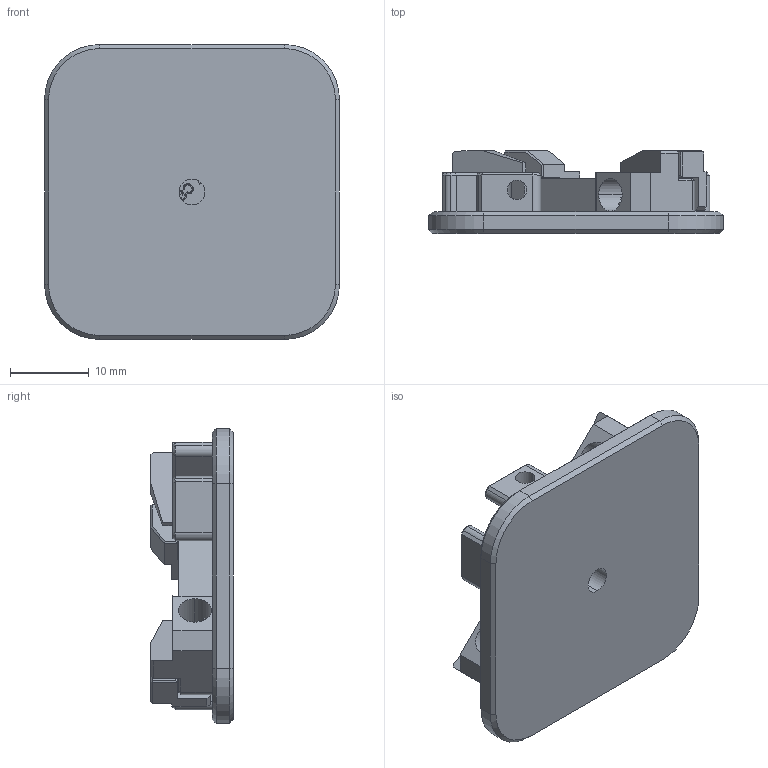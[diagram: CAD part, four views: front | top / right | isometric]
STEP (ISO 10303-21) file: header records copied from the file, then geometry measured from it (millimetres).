
FILE_DESCRIPTION (( 'STEP AP203' ), '1' );
FILE_NAME ('CSC1-3LM.STEP', '2024-03-28T03:19:35', ( '' ), ( '' ), 'SwSTEP 2.0', 'SolidWorks 2021', '' );
FILE_SCHEMA (( 'CONFIG_CONTROL_DESIGN' ));
Length unit declared in the file: millimetre
Products named in the file (1): CSC1-3LM
Bounding box: 37.5 x 10.55 x 37.5 mm (x, y, z)
Surface area: 5180.3 mm2 (no closed solid volume)
Topology: 0 solids, 15 shells, 280 faces, 1097 edges, 819 vertices
Faces by surface type: plane 185, cylinder 48, cone 32, bspline 15
Entity records: 13351 total; most frequent: CARTESIAN_POINT 4448, ORIENTED_EDGE 1693, DIRECTION 1665, EDGE_CURVE 1095, VECTOR 837, LINE 837, VERTEX_POINT 819, AXIS2_PLACEMENT_3D 414
